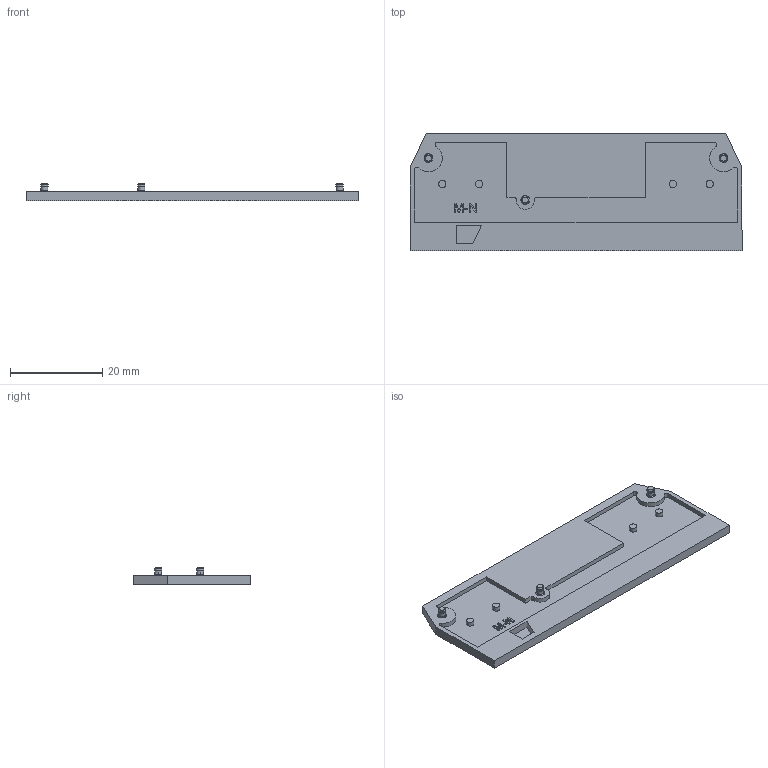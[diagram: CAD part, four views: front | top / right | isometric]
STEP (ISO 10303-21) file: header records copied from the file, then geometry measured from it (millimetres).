
FILE_DESCRIPTION (( 'STEP AP203' ), '1' );
FILE_NAME ('阎褪.757537.059 牮赅.STEP', '2019-12-24T13:15:41', ( '' ), ( '' ), 'SwSTEP 2.0', 'SolidWorks 2016', '' );
FILE_SCHEMA (( 'CONFIG_CONTROL_DESIGN' ));
Length unit declared in the file: millimetre
Products named in the file (1): 阎褪.757537.059 牮赅
Bounding box: 72 x 25.5 x 3.8 mm (x, y, z)
Volume: 2420.6 mm3; surface area: 4525.6 mm2
Topology: 1 solids, 1 shells, 387 faces, 993 edges, 654 vertices
Faces by surface type: plane 220, bspline 105, cylinder 44, cone 18
Entity records: 17378 total; most frequent: CARTESIAN_POINT 8516, ORIENTED_EDGE 1986, DIRECTION 1449, EDGE_CURVE 993, VECTOR 683, LINE 683, VERTEX_POINT 654, EDGE_LOOP 433
